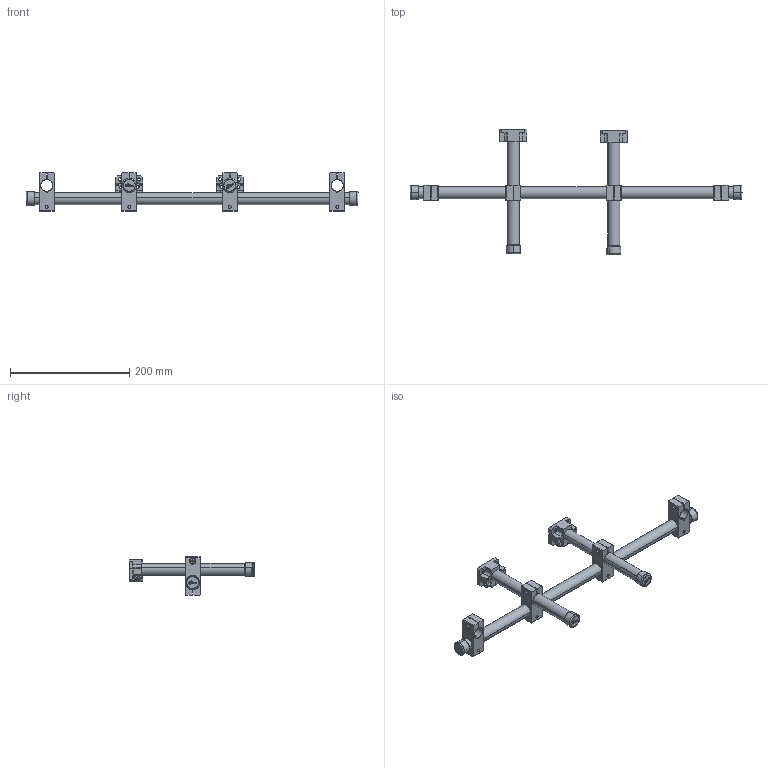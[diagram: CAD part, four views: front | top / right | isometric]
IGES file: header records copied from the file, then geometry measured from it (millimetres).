
Start section: SolidWorks IGES file using analytic representation for surfaces
Global section: file name: E:\EFCKishi\基礎フレーム\EFCK2000\IGES\EFCK-2005.IGS; native system: SolidWorks 2006 by SolidWorks Corporation; preprocessor: SolidWorks 2006 by SolidWorks Corporation; author: CAD58; date: 080913.085250; units: millimetre
Bounding box: 556 x 210.54 x 64 mm (x, y, z)
Surface area: 198253.3 mm2 (no closed solid volume)
Topology: 0 solids, 0 shells, 2940 faces, 21976 edges, 21916 vertices
Faces by surface type: bspline 2734, revolution 206
